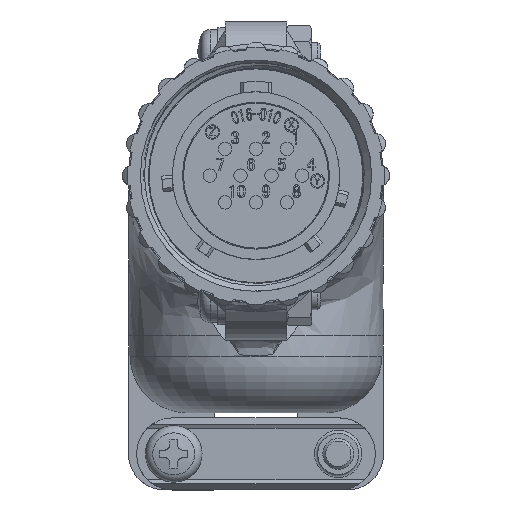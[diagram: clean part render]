
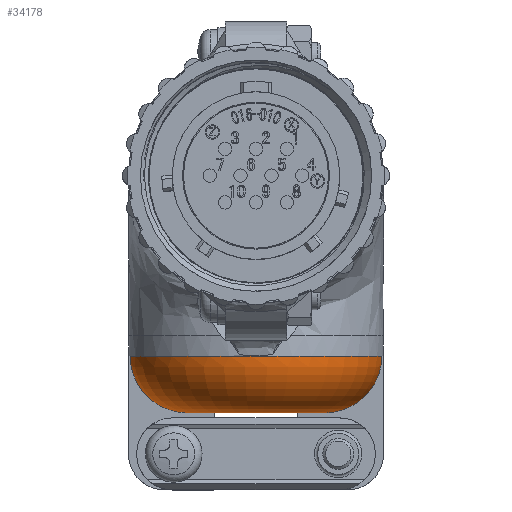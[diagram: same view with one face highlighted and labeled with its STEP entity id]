
A CAD part, top view. The second image highlights one B-rep face of the part: STEP entity #34178.
In plain terms, the highlighted toroidal (fillet/blend) face has major radius 6.9 mm and minor radius 5.5 mm.
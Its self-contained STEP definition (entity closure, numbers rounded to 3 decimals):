
#714 = ORIENTED_EDGE ( 'NONE', *, *, #10701, .F. ) ;
#847 = DIRECTION ( 'NONE',  ( 0., 0., -1. ) ) ;
#1124 = CARTESIAN_POINT ( 'NONE',  ( 7.871, -22.866, -39.7 ) ) ;
#1483 = DIRECTION ( 'NONE',  ( 0., 0., -1. ) ) ;
#2407 = CARTESIAN_POINT ( 'NONE',  ( -12.238, -17.5, -39.7 ) ) ;
#2917 = CARTESIAN_POINT ( 'NONE',  ( -6.967, -23., -39.7 ) ) ;
#4053 = ORIENTED_EDGE ( 'NONE', *, *, #30498, .F. ) ;
#5436 = CARTESIAN_POINT ( 'NONE',  ( 8.573, -22.663, -39.7 ) ) ;
#5624 = CARTESIAN_POINT ( 'NONE',  ( 10.019, -21.902, -39.7 ) ) ;
#5804 = CARTESIAN_POINT ( 'NONE',  ( 0., -23., -41.7 ) ) ;
#5813 = CARTESIAN_POINT ( 'NONE',  ( 10.31, -21.672, -39.7 ) ) ;
#6162 = DIRECTION ( 'NONE',  ( 0., 1., 0. ) ) ;
#7139 = VERTEX_POINT ( 'NONE', #34675 ) ;
#8780 = DIRECTION ( 'NONE',  ( 0., 0., -1. ) ) ;
#8969 = B_SPLINE_CURVE_WITH_KNOTS ( 'NONE', 3,
 ( #44421, #31474, #36114, #10311, #48868, #53204, #31658, #31303, #53390, #44057, #18580, #14443, #5813, #5624, #14259, #18396, #5436, #52658, #23251, #1124, #49049, #35587, #44243 ),
 .UNSPECIFIED., .F., .F.,
 ( 4, 2, 2, 1, 2, 2, 2, 2, 2, 2, 2, 4 ),
 ( 0.055, 0.056, 0.056, 0.057, 0.057, 0.058, 0.059, 0.06, 0.061, 0.062, 0.062, 0.063 ),
 .UNSPECIFIED. ) ;
#9854 = CARTESIAN_POINT ( 'NONE',  ( 0., -17.5, -41.7 ) ) ;
#10311 = CARTESIAN_POINT ( 'NONE',  ( 12.092, -18.764, -39.7 ) ) ;
#10701 = EDGE_CURVE ( 'NONE', #25865, #7139, #48623, .T. ) ;
#10838 = CARTESIAN_POINT ( 'NONE',  ( -11.945, -19.297, -39.7 ) ) ;
#11023 = CARTESIAN_POINT ( 'NONE',  ( -10.022, -21.901, -39.7 ) ) ;
#11035 = FACE_OUTER_BOUND ( 'NONE', #31838, .T. ) ;
#11393 = CARTESIAN_POINT ( 'NONE',  ( -9.078, -22.464, -39.7 ) ) ;
#14259 = CARTESIAN_POINT ( 'NONE',  ( 9.407, -22.295, -39.7 ) ) ;
#14443 = CARTESIAN_POINT ( 'NONE',  ( 10.833, -21.165, -39.7 ) ) ;
#18396 = CARTESIAN_POINT ( 'NONE',  ( 9.084, -22.461, -39.7 ) ) ;
#18580 = CARTESIAN_POINT ( 'NONE',  ( 11.068, -20.888, -39.7 ) ) ;
#19453 = CARTESIAN_POINT ( 'NONE',  ( -8.4, -22.722, -39.7 ) ) ;
#19637 = CARTESIAN_POINT ( 'NONE',  ( -10.699, -21.296, -39.7 ) ) ;
#20001 = CARTESIAN_POINT ( 'NONE',  ( -6.604, -23., -39.7 ) ) ;
#23251 = CARTESIAN_POINT ( 'NONE',  ( 8.048, -22.824, -39.7 ) ) ;
#23768 = CARTESIAN_POINT ( 'NONE',  ( -7.329, -22.967, -39.7 ) ) ;
#23949 = CARTESIAN_POINT ( 'NONE',  ( -12.238, -17.5, -39.7 ) ) ;
#24483 = CARTESIAN_POINT ( 'NONE',  ( -11.659, -19.967, -39.7 ) ) ;
#25865 = VERTEX_POINT ( 'NONE', #2407 ) ;
#26188 = DIRECTION ( 'NONE',  ( 0., 1., 0. ) ) ;
#27870 = VERTEX_POINT ( 'NONE', #45571 ) ;
#29072 = EDGE_CURVE ( 'NONE', #27870, #43893, #31443, .T. ) ;
#29282 = B_SPLINE_CURVE_WITH_KNOTS ( 'NONE', 3,
 ( #20001, #2917, #23768, #36997, #32357, #19453, #41160, #11393, #50115, #11023, #40982, #19637, #41334, #49567, #36633, #45841, #24483, #10838, #32551, #54451, #36449, #23949 ),
 .UNSPECIFIED., .F., .F.,
 ( 4, 2, 2, 2, 2, 2, 2, 2, 2, 2, 4 ),
 ( 0.001, 0.002, 0.002, 0.003, 0.004, 0.005, 0.006, 0.006, 0.007, 0.008, 0.009 ),
 .UNSPECIFIED. ) ;
#30498 = EDGE_CURVE ( 'NONE', #7139, #43893, #8969, .T. ) ;
#31303 = CARTESIAN_POINT ( 'NONE',  ( 11.653, -19.959, -39.7 ) ) ;
#31443 = CIRCLE ( 'NONE', #35633, 6.9 ) ;
#31474 = CARTESIAN_POINT ( 'NONE',  ( 12.238, -17.864, -39.7 ) ) ;
#31658 = CARTESIAN_POINT ( 'NONE',  ( 11.812, -19.632, -39.7 ) ) ;
#31838 = EDGE_LOOP ( 'NONE', ( #49596, #52374, #4053, #714 ) ) ;
#32357 = CARTESIAN_POINT ( 'NONE',  ( -8.049, -22.823, -39.7 ) ) ;
#32551 = CARTESIAN_POINT ( 'NONE',  ( -12.055, -18.942, -39.7 ) ) ;
#34178 = ADVANCED_FACE ( 'NONE', ( #11035 ), #55265, .T. ) ;
#34675 = CARTESIAN_POINT ( 'NONE',  ( 12.238, -17.5, -39.7 ) ) ;
#35587 = CARTESIAN_POINT ( 'NONE',  ( 6.971, -23., -39.7 ) ) ;
#35633 = AXIS2_PLACEMENT_3D ( 'NONE', #5804, #6162, #1483 ) ;
#36114 = CARTESIAN_POINT ( 'NONE',  ( 12.201, -18.225, -39.7 ) ) ;
#36259 = AXIS2_PLACEMENT_3D ( 'NONE', #9854, #39243, #847 ) ;
#36449 = CARTESIAN_POINT ( 'NONE',  ( -12.238, -17.867, -39.7 ) ) ;
#36633 = CARTESIAN_POINT ( 'NONE',  ( -11.172, -20.737, -39.7 ) ) ;
#36997 = CARTESIAN_POINT ( 'NONE',  ( -7.87, -22.866, -39.7 ) ) ;
#39243 = DIRECTION ( 'NONE',  ( 0., 1., 0. ) ) ;
#39741 = AXIS2_PLACEMENT_3D ( 'NONE', #51677, #26188, #8780 ) ;
#39798 = CARTESIAN_POINT ( 'NONE',  ( 6.604, -23., -39.7 ) ) ;
#40982 = CARTESIAN_POINT ( 'NONE',  ( -10.307, -21.674, -39.7 ) ) ;
#41160 = CARTESIAN_POINT ( 'NONE',  ( -8.572, -22.664, -39.7 ) ) ;
#41334 = CARTESIAN_POINT ( 'NONE',  ( -10.823, -21.163, -39.7 ) ) ;
#43893 = VERTEX_POINT ( 'NONE', #39798 ) ;
#44057 = CARTESIAN_POINT ( 'NONE',  ( 11.38, -20.436, -39.7 ) ) ;
#44243 = CARTESIAN_POINT ( 'NONE',  ( 6.604, -23., -39.7 ) ) ;
#44421 = CARTESIAN_POINT ( 'NONE',  ( 12.238, -17.5, -39.7 ) ) ;
#45571 = CARTESIAN_POINT ( 'NONE',  ( -6.604, -23., -39.7 ) ) ;
#45841 = CARTESIAN_POINT ( 'NONE',  ( -11.484, -20.285, -39.7 ) ) ;
#47794 = EDGE_CURVE ( 'NONE', #27870, #25865, #29282, .T. ) ;
#48623 = CIRCLE ( 'NONE', #36259, 12.4 ) ;
#48868 = CARTESIAN_POINT ( 'NONE',  ( 12.046, -18.943, -39.7 ) ) ;
#49049 = CARTESIAN_POINT ( 'NONE',  ( 7.335, -22.966, -39.7 ) ) ;
#49567 = CARTESIAN_POINT ( 'NONE',  ( -11.06, -20.884, -39.7 ) ) ;
#49596 = ORIENTED_EDGE ( 'NONE', *, *, #47794, .F. ) ;
#50115 = CARTESIAN_POINT ( 'NONE',  ( -9.402, -22.299, -39.7 ) ) ;
#51677 = CARTESIAN_POINT ( 'NONE',  ( 0., -17.5, -41.7 ) ) ;
#52374 = ORIENTED_EDGE ( 'NONE', *, *, #29072, .T. ) ;
#52658 = CARTESIAN_POINT ( 'NONE',  ( 8.399, -22.723, -39.7 ) ) ;
#53204 = CARTESIAN_POINT ( 'NONE',  ( 11.937, -19.291, -39.7 ) ) ;
#53390 = CARTESIAN_POINT ( 'NONE',  ( 11.477, -20.279, -39.7 ) ) ;
#54451 = CARTESIAN_POINT ( 'NONE',  ( -12.201, -18.229, -39.7 ) ) ;
#55265 = TOROIDAL_SURFACE ( 'NONE', #39741, 6.9, 5.5 ) ;
